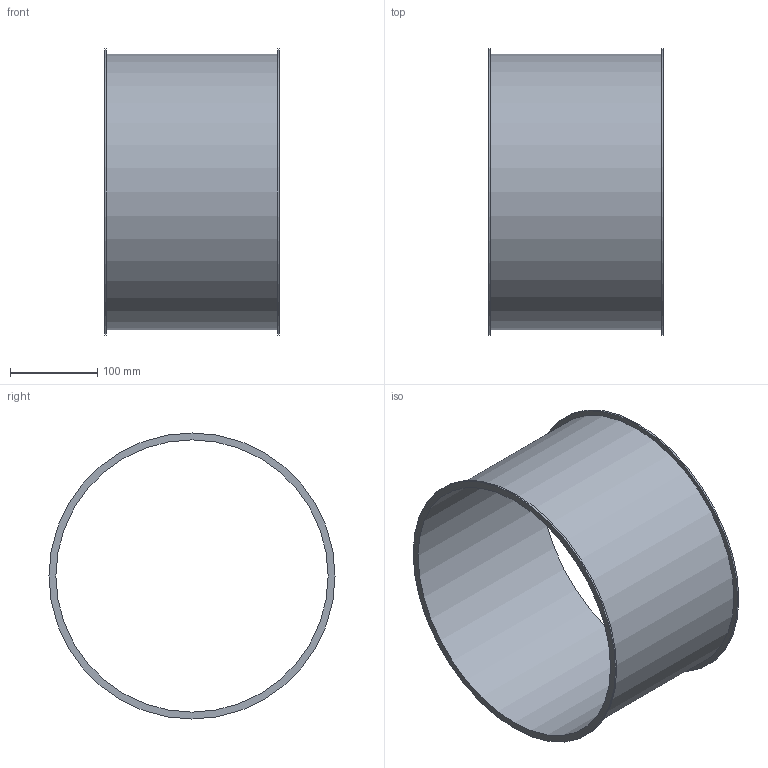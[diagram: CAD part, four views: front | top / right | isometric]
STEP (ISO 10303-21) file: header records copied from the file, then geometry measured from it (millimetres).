
FILE_DESCRIPTION((''),'2;1');
FILE_NAME('U:\Wolfgang\Marcel-3D\fertig\Kapitel 1\3121004.stp','2010-05-31T11:39:48',('TK2'),(''),'Autodesk Inventor 2010','Autodesk Inventor 2010','');
FILE_SCHEMA(('AUTOMOTIVE_DESIGN { 1 0 10303 214 1 1 1 1 }'));
Length unit declared in the file: millimetre
Products named in the file (1): 3121004
Bounding box: 200 x 328 x 328 mm (x, y, z)
Volume: 418862.3 mm3; surface area: 422958.9 mm2
Topology: 1 solids, 1 shells, 8 faces, 12 edges, 8 vertices
Faces by surface type: cylinder 4, plane 4
Full cylindrical faces by diameter (mm): 312 x1, 316 x1, 328 x2
Entity records: 194 total; most frequent: DIRECTION 34, CARTESIAN_POINT 25, AXIS2_PLACEMENT_3D 17, ORIENTED_EDGE 16, EDGE_LOOP 16, VERTEX_POINT 8, CIRCLE 8, EDGE_CURVE 8
